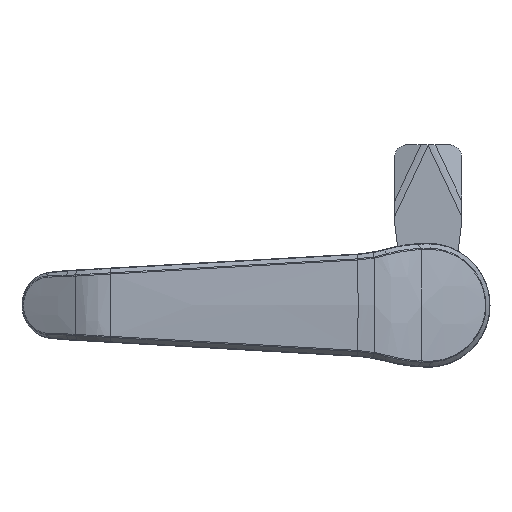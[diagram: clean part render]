
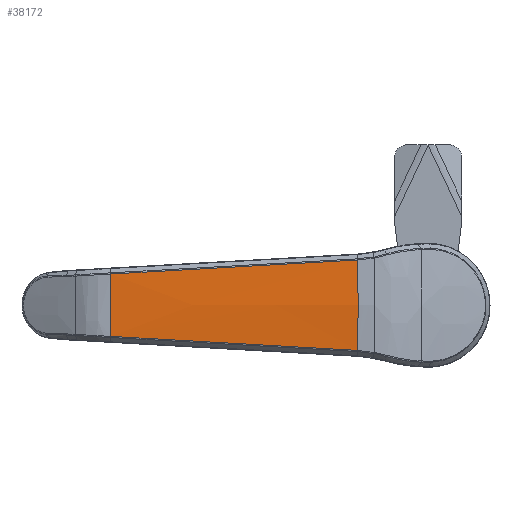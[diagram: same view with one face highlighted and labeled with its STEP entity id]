
A CAD part, top view. The second image highlights one B-rep face of the part: STEP entity #38172.
In plain terms, the highlighted free-form (B-spline) face has degree [3, 3] with [4, 5] control points.
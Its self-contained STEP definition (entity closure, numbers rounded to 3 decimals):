
#994 = B_SPLINE_CURVE_WITH_KNOTS ( 'NONE', 3,
 ( #24895, #41251, #3973, #49943 ),
 .UNSPECIFIED., .F., .F.,
 ( 4, 4 ),
 ( 0., 1. ),
 .UNSPECIFIED. ) ;
#1142 = CARTESIAN_POINT ( 'NONE',  ( -42.679, -8.05, 41.406 ) ) ;
#1680 = CARTESIAN_POINT ( 'NONE',  ( -91.248, -0.165, 41.62 ) ) ;
#3973 = CARTESIAN_POINT ( 'NONE',  ( -66.485, 10.018, 41.201 ) ) ;
#4027 = CARTESIAN_POINT ( 'NONE',  ( -19.937, 12.747, 41.028 ) ) ;
#4921 = CARTESIAN_POINT ( 'NONE',  ( -19.856, 8.498, 41.403 ) ) ;
#5190 = CARTESIAN_POINT ( 'NONE',  ( -19.812, -0.679, 41.589 ) ) ;
#5204 = CARTESIAN_POINT ( 'NONE',  ( -91.18, -6.225, 41.446 ) ) ;
#5425 = ORIENTED_EDGE ( 'NONE', *, *, #22631, .T. ) ;
#5464 = CARTESIAN_POINT ( 'NONE',  ( -19.812, -0.352, 41.59 ) ) ;
#8981 = CARTESIAN_POINT ( 'NONE',  ( -19.814, -4.307, 41.531 ) ) ;
#8985 = CARTESIAN_POINT ( 'NONE',  ( -43.168, -11.538, 41.115 ) ) ;
#9039 = ORIENTED_EDGE ( 'NONE', *, *, #11402, .T. ) ;
#9256 = CARTESIAN_POINT ( 'NONE',  ( -19.811, -0.971, 41.587 ) ) ;
#9586 = B_SPLINE_CURVE_WITH_KNOTS ( 'NONE', 3,
 ( #14164, #18256, #42469, #8981, #13624, #46558, #42748, #9256, #5190, #5464, #50902, #25855, #42202, #21777, #30756, #38374, #33744, #46830, #4921, #51173 ),
 .UNSPECIFIED., .F., .F.,
 ( 4, 2, 2, 2, 1, 1, 1, 1, 1, 1, 2, 2, 4 ),
 ( 0., 0.25, 0.375, 0.438, 0.469, 0.484, 0.492, 0.496, 0.498, 0.499, 0.5, 0.5, 1. ),
 .UNSPECIFIED. ) ;
#9810 = CARTESIAN_POINT ( 'NONE',  ( -18.505, -13.408, 40.977 ) ) ;
#10561 = CARTESIAN_POINT ( 'NONE',  ( -89.726, -8.978, 41.287 ) ) ;
#10650 = CARTESIAN_POINT ( 'NONE',  ( -19.889, -12.819, 41.028 ) ) ;
#11402 = EDGE_CURVE ( 'NONE', #52066, #21765, #18611, .T. ) ;
#12974 = CARTESIAN_POINT ( 'NONE',  ( -89.726, -8.978, 41.287 ) ) ;
#13624 = CARTESIAN_POINT ( 'NONE',  ( -19.812, -3.329, 41.556 ) ) ;
#13901 = CARTESIAN_POINT ( 'NONE',  ( -66.93, -7.138, 41.426 ) ) ;
#14164 = CARTESIAN_POINT ( 'NONE',  ( -19.889, -12.819, 41.028 ) ) ;
#14166 = B_SPLINE_CURVE_WITH_KNOTS ( 'NONE', 3,
 ( #17061, #16524, #38272, #12974 ),
 .UNSPECIFIED., .F., .F.,
 ( 4, 4 ),
 ( 0., 1. ),
 .UNSPECIFIED. ) ;
#16524 = CARTESIAN_POINT ( 'NONE',  ( -89.85, 2.783, 41.616 ) ) ;
#16896 = CARTESIAN_POINT ( 'NONE',  ( -89.726, -8.978, 41.287 ) ) ;
#17061 = CARTESIAN_POINT ( 'NONE',  ( -89.759, 8.653, 41.287 ) ) ;
#17718 = CARTESIAN_POINT ( 'NONE',  ( -42.752, 11.868, 41.076 ) ) ;
#18256 = CARTESIAN_POINT ( 'NONE',  ( -19.846, -9.989, 41.278 ) ) ;
#18262 = CARTESIAN_POINT ( 'NONE',  ( -66.913, -10.636, 41.174 ) ) ;
#18611 = B_SPLINE_CURVE_WITH_KNOTS ( 'NONE', 3,
 ( #16896, #33484, #8985, #50630 ),
 .UNSPECIFIED., .F., .F.,
 ( 4, 4 ),
 ( 0., 1. ),
 .UNSPECIFIED. ) ;
#21765 = VERTEX_POINT ( 'NONE', #10650 ) ;
#21777 = CARTESIAN_POINT ( 'NONE',  ( -19.813, -0.055, 41.59 ) ) ;
#21784 = CARTESIAN_POINT ( 'NONE',  ( -91.15, 8.92, 41.272 ) ) ;
#22595 = CARTESIAN_POINT ( 'NONE',  ( -18.553, 13.342, 40.977 ) ) ;
#22631 = EDGE_CURVE ( 'NONE', #33506, #25714, #994, .T. ) ;
#24650 = EDGE_CURVE ( 'NONE', #25714, #52066, #14166, .T. ) ;
#24895 = CARTESIAN_POINT ( 'NONE',  ( -19.937, 12.747, 41.028 ) ) ;
#25714 = VERTEX_POINT ( 'NONE', #39617 ) ;
#25855 = CARTESIAN_POINT ( 'NONE',  ( -19.812, -0.114, 41.59 ) ) ;
#26934 = CARTESIAN_POINT ( 'NONE',  ( -91.202, 5.896, 41.446 ) ) ;
#30213 = CARTESIAN_POINT ( 'NONE',  ( -18.429, -8.963, 41.386 ) ) ;
#30492 = CARTESIAN_POINT ( 'NONE',  ( -66.955, 6.896, 41.426 ) ) ;
#30756 = CARTESIAN_POINT ( 'NONE',  ( -19.813, -0.047, 41.59 ) ) ;
#30764 = CARTESIAN_POINT ( 'NONE',  ( -18.461, 8.897, 41.386 ) ) ;
#30781 = EDGE_CURVE ( 'NONE', #21765, #33506, #9586, .T. ) ;
#33484 = CARTESIAN_POINT ( 'NONE',  ( -66.447, -10.258, 41.201 ) ) ;
#33506 = VERTEX_POINT ( 'NONE', #4027 ) ;
#33744 = CARTESIAN_POINT ( 'NONE',  ( -19.813, -0.04, 41.59 ) ) ;
#38172 = ADVANCED_FACE ( 'NONE', ( #43555 ), #45813, .T. ) ;
#38272 = CARTESIAN_POINT ( 'NONE',  ( -89.838, -3.108, 41.616 ) ) ;
#38374 = CARTESIAN_POINT ( 'NONE',  ( -19.813, -0.041, 41.59 ) ) ;
#38381 = CARTESIAN_POINT ( 'NONE',  ( -66.959, -0.121, 41.679 ) ) ;
#38927 = CARTESIAN_POINT ( 'NONE',  ( -91.117, -9.25, 41.272 ) ) ;
#39193 = CARTESIAN_POINT ( 'NONE',  ( -66.951, 10.394, 41.174 ) ) ;
#39617 = CARTESIAN_POINT ( 'NONE',  ( -89.759, 8.653, 41.287 ) ) ;
#40796 = EDGE_LOOP ( 'NONE', ( #49074, #5425, #43397, #9039 ) ) ;
#41251 = CARTESIAN_POINT ( 'NONE',  ( -43.211, 11.383, 41.115 ) ) ;
#42202 = CARTESIAN_POINT ( 'NONE',  ( -19.813, -0.075, 41.59 ) ) ;
#42469 = CARTESIAN_POINT ( 'NONE',  ( -19.827, -7.505, 41.414 ) ) ;
#42748 = CARTESIAN_POINT ( 'NONE',  ( -19.811, -1.572, 41.583 ) ) ;
#43286 = CARTESIAN_POINT ( 'NONE',  ( -42.708, 7.897, 41.406 ) ) ;
#43397 = ORIENTED_EDGE ( 'NONE', *, *, #24650, .T. ) ;
#43555 = FACE_OUTER_BOUND ( 'NONE', #40796, .T. ) ;
#45813 = B_SPLINE_SURFACE_WITH_KNOTS ( 'NONE', 3, 3, ( 
 ( #38927, #5204, #1680, #26934, #21784 ),
 ( #18262, #13901, #38381, #30492, #39193 ),
 ( #47108, #1142, #47373, #43286, #17718 ),
 ( #9810, #30213, #51459, #30764, #22595 ) ),
 .UNSPECIFIED., .F., .F., .F.,
 ( 4, 4 ),
 ( 4, 1, 4 ),
 ( -0.019, 0.956 ),
 ( -0.02, 0.5, 1.02 ),
 .UNSPECIFIED. ) ;
#46558 = CARTESIAN_POINT ( 'NONE',  ( -19.811, -1.994, 41.578 ) ) ;
#46830 = CARTESIAN_POINT ( 'NONE',  ( -19.82, 4.231, 41.59 ) ) ;
#47108 = CARTESIAN_POINT ( 'NONE',  ( -42.709, -12.022, 41.076 ) ) ;
#47373 = CARTESIAN_POINT ( 'NONE',  ( -42.669, -0.077, 41.737 ) ) ;
#49074 = ORIENTED_EDGE ( 'NONE', *, *, #30781, .T. ) ;
#49943 = CARTESIAN_POINT ( 'NONE',  ( -89.759, 8.653, 41.287 ) ) ;
#50630 = CARTESIAN_POINT ( 'NONE',  ( -19.889, -12.819, 41.028 ) ) ;
#50902 = CARTESIAN_POINT ( 'NONE',  ( -19.812, -0.193, 41.59 ) ) ;
#51173 = CARTESIAN_POINT ( 'NONE',  ( -19.937, 12.747, 41.028 ) ) ;
#51459 = CARTESIAN_POINT ( 'NONE',  ( -18.38, -0.033, 41.796 ) ) ;
#52066 = VERTEX_POINT ( 'NONE', #10561 ) ;
